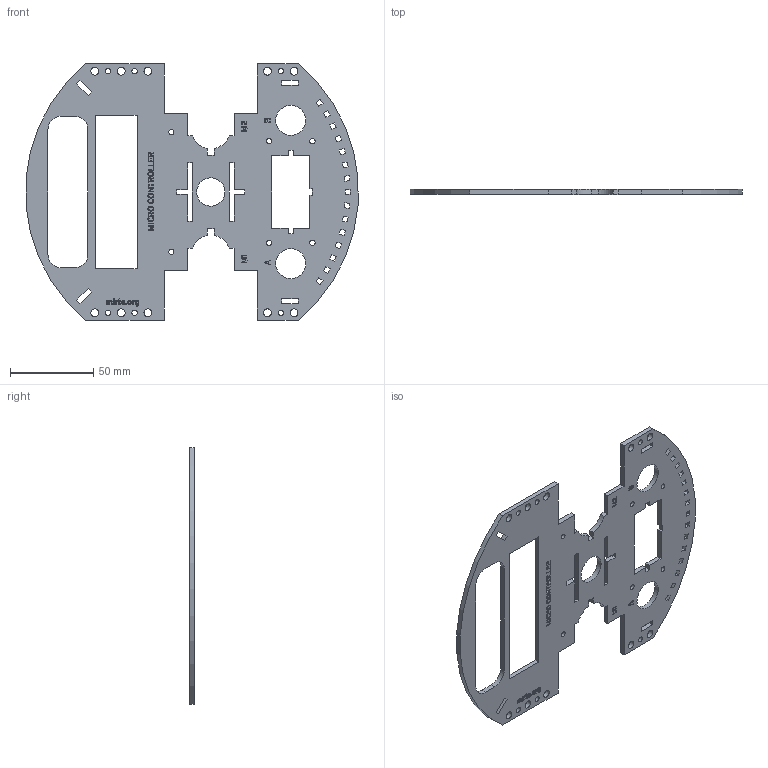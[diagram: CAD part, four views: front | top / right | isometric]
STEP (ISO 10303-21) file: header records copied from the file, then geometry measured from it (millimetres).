
FILE_DESCRIPTION(('FreeCAD Model'),'2;1');
FILE_NAME('Open CASCADE Shape Model','2024-06-26T11:40:42',('FreeCAD'),( 'FreeCAD'),'Open CASCADE STEP processor 7.6','FreeCAD','Unknown');
FILE_SCHEMA(('AUTOMOTIVE_DESIGN { 1 0 10303 214 1 1 1 1 }'));
Length unit declared in the file: millimetre
Products named in the file (1): Open CASCADE STEP translator 7.6 13
Bounding box: 199.36 x 3 x 154 mm (x, y, z)
Volume: 48041.4 mm3; surface area: 39517.1 mm2
Topology: 1 solids, 1 shells, 826 faces, 2343 edges, 1562 vertices
Faces by surface type: extrusion 407, plane 384, cylinder 35
Full cylindrical faces by diameter (mm): 3.2 x12, 4.7 x10, 17 x1, 18 x2
Entity records: 27317 total; most frequent: CARTESIAN_POINT 7174, ORIENTED_EDGE 4686, DIRECTION 2846, EDGE_CURVE 2343, VECTOR 1866, VERTEX_POINT 1562, LINE 1459, B_SPLINE_CURVE_WITH_KNOTS 1221
